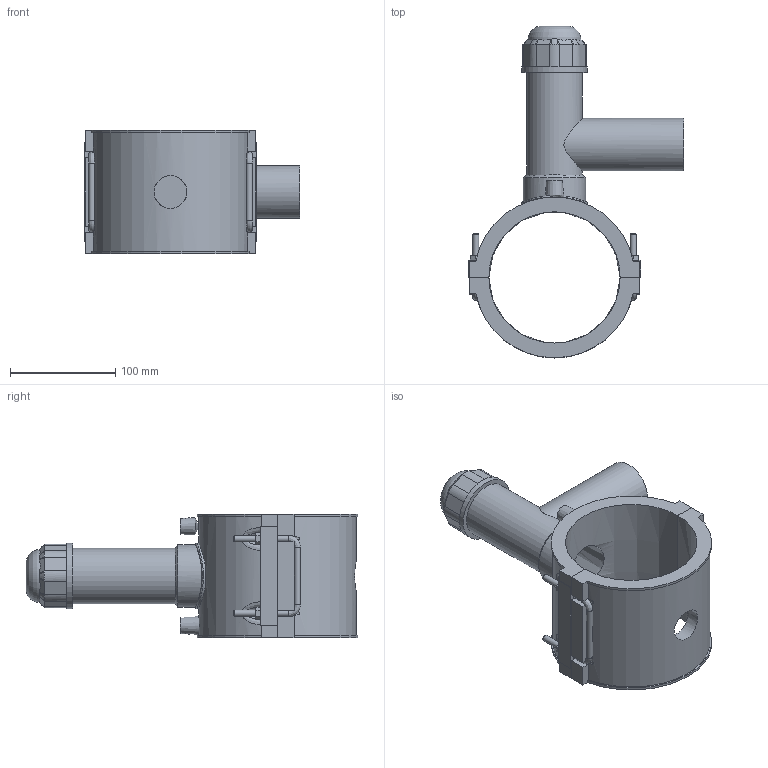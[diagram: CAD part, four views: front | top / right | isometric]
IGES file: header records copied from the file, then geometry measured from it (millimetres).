
Global section: file name: 496304125050.ipt; native system: Autodesk Inventor 2015; preprocessor: unknown; author: KIM; date: 20190124.130929; units: millimetre
Bounding box: 205 x 316 x 118 mm (x, y, z)
Volume: 946189.4 mm3; surface area: 211009.1 mm2
Topology: 2 solids, 4 shells, 227 faces, 566 edges, 363 vertices
Faces by surface type: plane 126, cylinder 37, revolution 28, bspline 21, cone 15
Full cylindrical faces by diameter (mm): 4 x2, 6 x8, 50 x1, 53.125 x1, 59.375 x1, 62.5 x2
